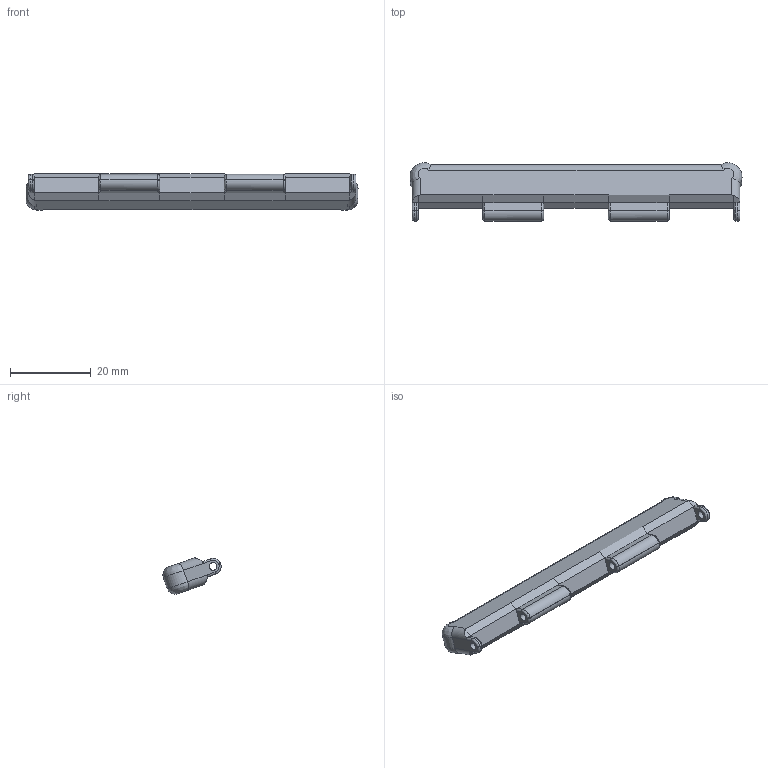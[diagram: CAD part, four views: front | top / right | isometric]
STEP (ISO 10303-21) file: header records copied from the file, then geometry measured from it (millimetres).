
FILE_DESCRIPTION(/* description */ (''),/* implementation_level */ '2;1');
FILE_NAME(/* name */ 'RightMagneticBack.step',/* time_stamp */ '2026-09-30T10:56:38+13:00',/* author */ (''),/* organization */ (''),/* preprocessor_version */ 'ST-DEVELOPER v20.2',/* originating_system */ 'Autodesk Translation Framework v15.15.0.0',/* authorisation */ '');
FILE_SCHEMA (('AUTOMOTIVE_DESIGN { 1 0 10303 214 3 1 1 }','FEATURE_BASED_PROCESS_PLANNING'));
Length unit declared in the file: millimetre
Products named in the file (3): 2026-08-23-14-38-27-662; 2026-09-05-13-34-59-849; 2026-09-08-12-17-09-798
Assembly tree (2 placements, depth 3):
  2026-08-23-14-38-27-662
    2026-09-05-13-34-59-849
      2026-09-08-12-17-09-798
Bounding box: 81.99 x 14.39 x 9.01 mm (x, y, z)
Volume: 4965 mm3; surface area: 3844.5 mm2
Topology: 1 solids, 6 shells, 129 faces, 291 edges, 174 vertices
Faces by surface type: plane 65, cylinder 46, bspline 17, torus 1
Full cylindrical faces by diameter (mm): 1.9 x4, 6.2 x5
Entity records: 4260 total; most frequent: CARTESIAN_POINT 1362, ORIENTED_EDGE 582, DIRECTION 573, EDGE_CURVE 291, AXIS2_PLACEMENT_3D 202, VERTEX_POINT 174, LINE 169, VECTOR 169
